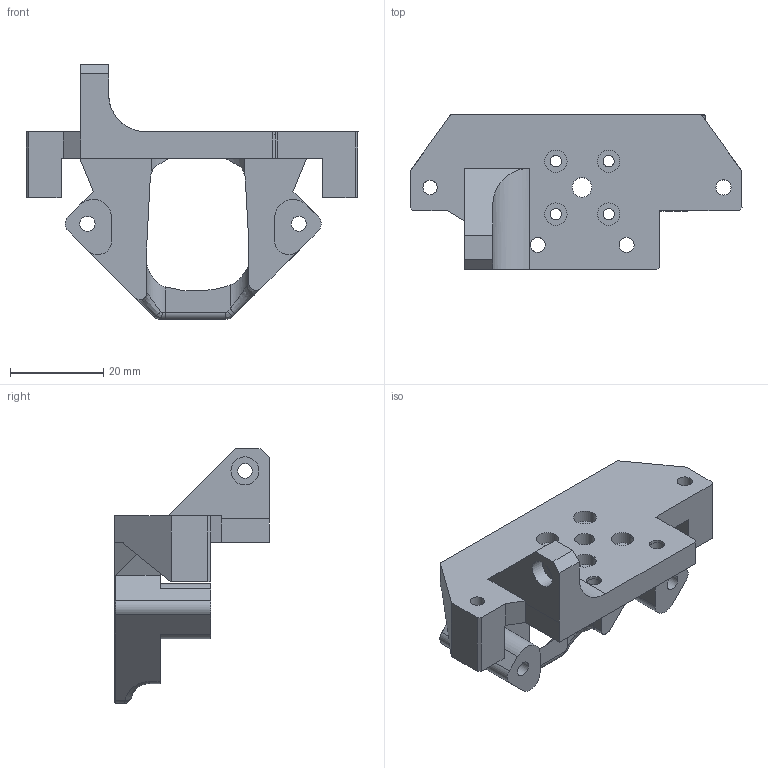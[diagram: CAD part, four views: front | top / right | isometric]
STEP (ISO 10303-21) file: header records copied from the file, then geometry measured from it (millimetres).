
FILE_DESCRIPTION(/* description */ (''),/* implementation_level */ '2;1');
FILE_NAME(/* name */ 'C:/Users/Martin/Documents/icarus-2.1/icarus-2-current-step-files/2-mounts/mount-lgx-lite-volcano-dragon-2.1.step',/* time_stamp */ '2022-08-22T19:19:55+02:00',/* author */ (''),/* organization */ (''),/* preprocessor_version */ 'ST-DEVELOPER v19',/* originating_system */ 'Autodesk Translation Framework v11.7.0.108',/* authorisation */ '');
FILE_SCHEMA (('AUTOMOTIVE_DESIGN { 1 0 10303 214 3 1 1 }'));
Length unit declared in the file: millimetre
Products named in the file (1): mount-rapido
Bounding box: 71.07 x 33.12 x 54.58 mm (x, y, z)
Volume: 19481.1 mm3; surface area: 10441 mm2
Topology: 1 solids, 1 shells, 136 faces, 363 edges, 235 vertices
Faces by surface type: plane 59, cylinder 43, bspline 25, cone 8, torus 1
Full cylindrical faces by diameter (mm): 2.4 x4, 3.1 x1, 3.15 x1, 3.2 x4, 3.25 x5, 4.2 x1, 4.8 x4, 6 x3
Entity records: 5009 total; most frequent: CARTESIAN_POINT 1629, ORIENTED_EDGE 726, DIRECTION 629, EDGE_CURVE 363, VERTEX_POINT 235, AXIS2_PLACEMENT_3D 212, LINE 205, VECTOR 205
